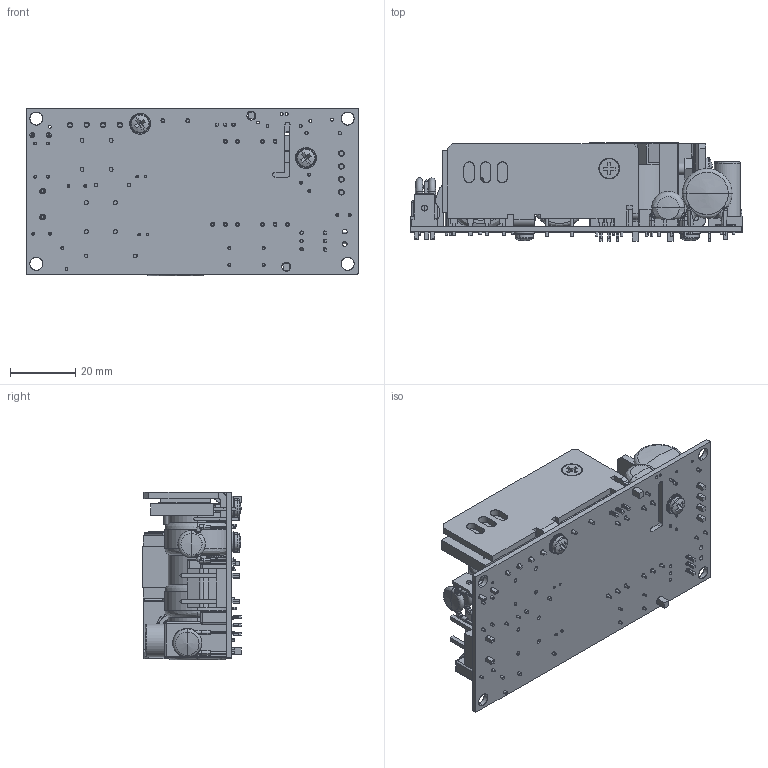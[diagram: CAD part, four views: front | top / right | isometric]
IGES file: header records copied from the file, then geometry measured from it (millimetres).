
Start section: SolidWorks IGES file using analytic representation for surfaces
Global section: file name: C:\Documents and Settings\behzar\Desktop\BEHZAR\PROJECTS\CURRENT-2010\SW-MODELS\WORKING\HELP\ECS100-12-48V-SINGLE-OUTPUT .IGS; native system: SolidWorks 2010; preprocessor: SolidWorks 2010; author: BEHZAR; date: 100623.095553; units: inch
Bounding box: 101.6 x 30.21 x 51.32 mm (x, y, z)
Surface area: 41345.8 mm2 (no closed solid volume)
Topology: 0 solids, 0 shells, 1683 faces, 17331 edges, 17279 vertices
Faces by surface type: bspline 1011, revolution 672
